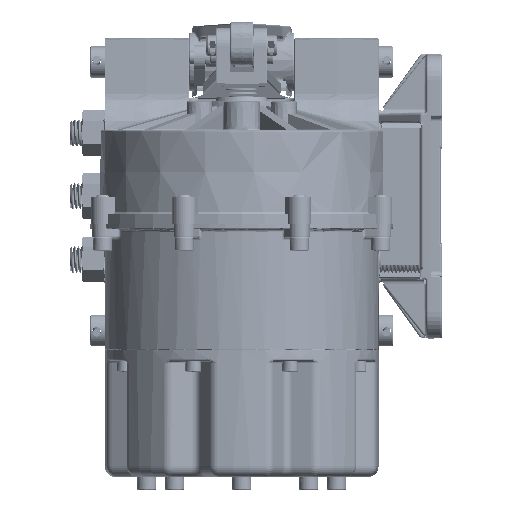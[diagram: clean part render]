
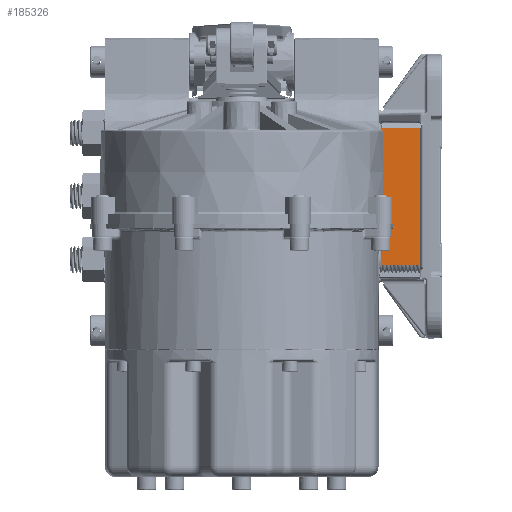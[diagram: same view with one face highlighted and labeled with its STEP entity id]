
A CAD part, left-side view. The second image highlights one B-rep face of the part: STEP entity #185326.
In plain terms, the highlighted planar face has unit normal (-1, 0.018, 0).
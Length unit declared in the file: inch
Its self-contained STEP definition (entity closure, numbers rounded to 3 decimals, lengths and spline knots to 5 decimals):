
#19827 = CARTESIAN_POINT ( 'NONE',  ( -4.01341, -3.29913, -1.625 ) ) ;
#33473 = VERTEX_POINT ( 'NONE', #19827 ) ;
#36294 = EDGE_CURVE ( 'NONE', #59137, #40038, #81268, .T. ) ;
#40038 = VERTEX_POINT ( 'NONE', #161388 ) ;
#48124 = ORIENTED_EDGE ( 'NONE', *, *, #36294, .T. ) ;
#53706 = CARTESIAN_POINT ( 'NONE',  ( -4.02915, -4.20087, 0. ) ) ;
#54960 = DIRECTION ( 'NONE',  ( -1., 0.017, 0. ) ) ;
#59137 = VERTEX_POINT ( 'NONE', #157325 ) ;
#73618 = DIRECTION ( 'NONE',  ( 0.017, 1., 0. ) ) ;
#74355 = EDGE_CURVE ( 'NONE', #40038, #33473, #132100, .T. ) ;
#78678 = VECTOR ( 'NONE', #239497, 39.37008 ) ;
#81268 = LINE ( 'NONE', #193897, #235210 ) ;
#86134 = AXIS2_PLACEMENT_3D ( 'NONE', #175259, #54960, #195392 ) ;
#89848 = LINE ( 'NONE', #53706, #143157 ) ;
#90855 = EDGE_CURVE ( 'NONE', #33473, #121670, #121737, .T. ) ;
#99017 = CARTESIAN_POINT ( 'NONE',  ( -4.01341, -3.29913, -1.625 ) ) ;
#104343 = ORIENTED_EDGE ( 'NONE', *, *, #74355, .T. ) ;
#110042 = EDGE_LOOP ( 'NONE', ( #48124, #104343, #174276, #203143 ) ) ;
#121670 = VERTEX_POINT ( 'NONE', #208243 ) ;
#121737 = LINE ( 'NONE', #146842, #228510 ) ;
#123520 = EDGE_CURVE ( 'NONE', #121670, #59137, #89848, .T. ) ;
#132100 = LINE ( 'NONE', #99017, #78678 ) ;
#143157 = VECTOR ( 'NONE', #173997, 39.37008 ) ;
#145975 = DIRECTION ( 'NONE',  ( -0.017, -1., 0. ) ) ;
#146842 = CARTESIAN_POINT ( 'NONE',  ( -4.03437, -4.5, -1.625 ) ) ;
#157325 = CARTESIAN_POINT ( 'NONE',  ( -4.02915, -4.20087, 1.625 ) ) ;
#161388 = CARTESIAN_POINT ( 'NONE',  ( -4.01341, -3.29913, 1.625 ) ) ;
#173236 = FACE_OUTER_BOUND ( 'NONE', #110042, .T. ) ;
#173997 = DIRECTION ( 'NONE',  ( 0., 0., 1. ) ) ;
#174276 = ORIENTED_EDGE ( 'NONE', *, *, #90855, .T. ) ;
#175259 = CARTESIAN_POINT ( 'NONE',  ( -4.03437, -4.5, 0. ) ) ;
#185326 = ADVANCED_FACE ( 'NONE', ( #173236 ), #214687, .T. ) ;
#193897 = CARTESIAN_POINT ( 'NONE',  ( -4.03437, -4.5, 1.625 ) ) ;
#195392 = DIRECTION ( 'NONE',  ( -0.017, -1., 0. ) ) ;
#203143 = ORIENTED_EDGE ( 'NONE', *, *, #123520, .T. ) ;
#208243 = CARTESIAN_POINT ( 'NONE',  ( -4.02915, -4.20087, -1.625 ) ) ;
#214687 = PLANE ( 'NONE',  #86134 ) ;
#228510 = VECTOR ( 'NONE', #145975, 39.37008 ) ;
#235210 = VECTOR ( 'NONE', #73618, 39.37008 ) ;
#239497 = DIRECTION ( 'NONE',  ( 0., 0., -1. ) ) ;
